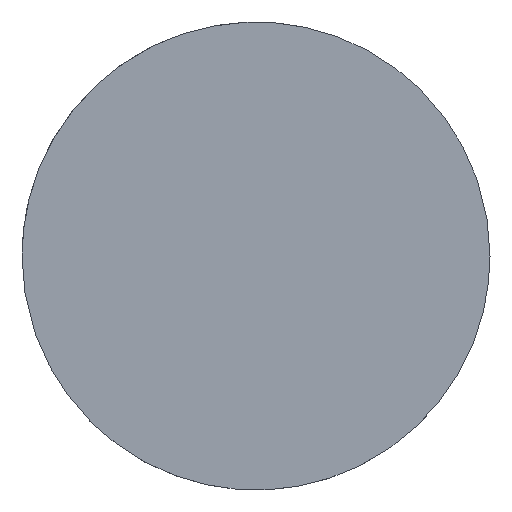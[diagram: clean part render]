
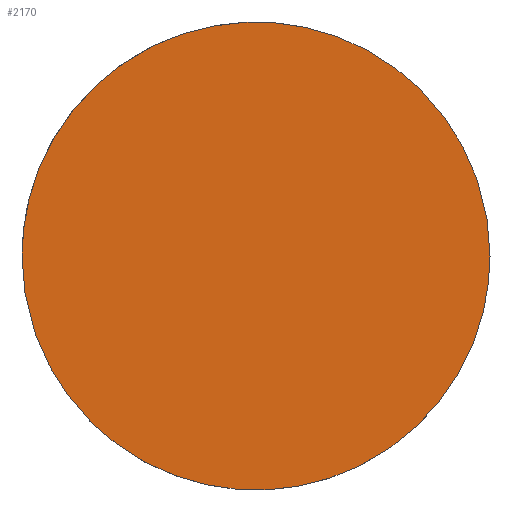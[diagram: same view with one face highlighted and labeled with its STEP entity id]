
A CAD part, top view. The second image highlights one B-rep face of the part: STEP entity #2170.
In plain terms, the highlighted planar face has unit normal (0, 0, 1).
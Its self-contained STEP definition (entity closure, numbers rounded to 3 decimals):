
#190 = CARTESIAN_POINT ('', (-50., 0., -187.433));
#200 = VERTEX_POINT ('', #190);
#260 = CARTESIAN_POINT ('', (50., 0., -187.433));
#270 = VERTEX_POINT ('', #260);
#280 = CARTESIAN_POINT ('', (50., 0., -187.433));
#290 = CARTESIAN_POINT ('', (50., 50., -187.433));
#300 = CARTESIAN_POINT ('', (0., 50., -187.433));
#310 = CARTESIAN_POINT ('', (-50., 50., -187.433));
#320 = CARTESIAN_POINT ('', (-50., 0., -187.433));
#330 = (
   BOUNDED_CURVE ()
   B_SPLINE_CURVE (2, (#280, #290, #300, #310, #320), .UNSPECIFIED., .F., .U.)
   B_SPLINE_CURVE_WITH_KNOTS ((3, 2, 3), (0., 1.571, 3.142), .UNSPECIFIED.)
   CURVE ()
   GEOMETRIC_REPRESENTATION_ITEM ()
   RATIONAL_B_SPLINE_CURVE ((1., 0.707, 1., 0.707, 1.))
   REPRESENTATION_ITEM ('')
);
#340 = EDGE_CURVE ('', #270, #200, #330, .T.);
#580 = CARTESIAN_POINT ('', (-50., 0., -187.433));
#590 = CARTESIAN_POINT ('', (-50., -50., -187.433));
#600 = CARTESIAN_POINT ('', (0., -50., -187.433));
#610 = CARTESIAN_POINT ('', (50., -50., -187.433));
#620 = CARTESIAN_POINT ('', (50., 0., -187.433));
#630 = (
   BOUNDED_CURVE ()
   B_SPLINE_CURVE (2, (#580, #590, #600, #610, #620), .UNSPECIFIED., .F., .U.)
   B_SPLINE_CURVE_WITH_KNOTS ((3, 2, 3), (3.142, 4.712, 6.283), .UNSPECIFIED.)
   CURVE ()
   GEOMETRIC_REPRESENTATION_ITEM ()
   RATIONAL_B_SPLINE_CURVE ((1., 0.707, 1., 0.707, 1.))
   REPRESENTATION_ITEM ('')
);
#640 = EDGE_CURVE ('', #200, #270, #630, .T.);
#2080 = ORIENTED_EDGE ('', *, *, #340, .T.);
#2090 = ORIENTED_EDGE ('', *, *, #640, .T.);
#2100 = EDGE_LOOP ('', (#2080, #2090));
#2110 = FACE_OUTER_BOUND ('', #2100, .T.);
#2120 = CARTESIAN_POINT ('', (0., 102.204, -187.433));
#2130 = DIRECTION ('', (0., 0., 1.));
#2140 = DIRECTION ('', (-0.707, -0.707, 0.));
#2150 = AXIS2_PLACEMENT_3D ('', #2120, #2130, #2140);
#2160 = PLANE ('', #2150);
#2170 = ADVANCED_FACE ('', (#2110), #2160, .T.);
